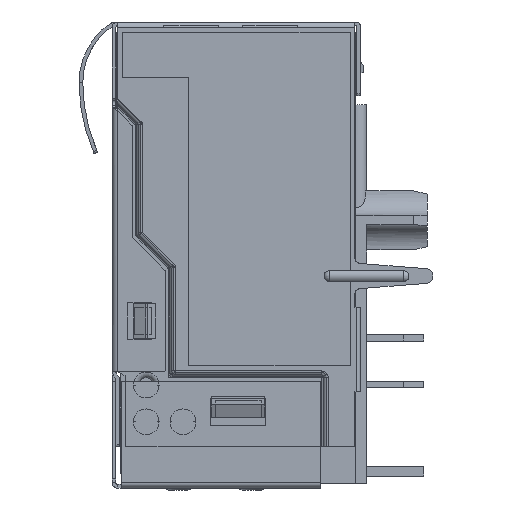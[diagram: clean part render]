
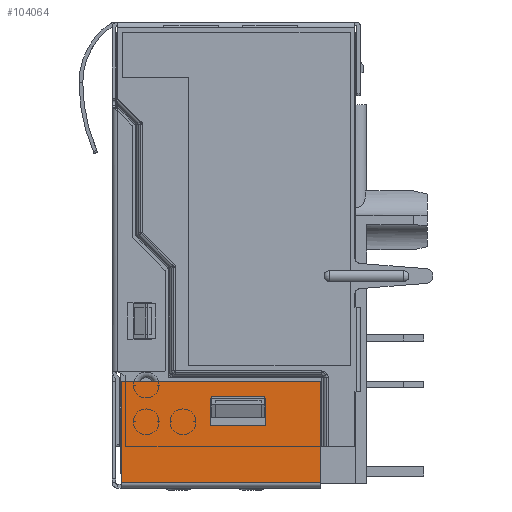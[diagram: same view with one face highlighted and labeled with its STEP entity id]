
A CAD part, left-side view. The second image highlights one B-rep face of the part: STEP entity #104064.
In plain terms, the highlighted planar face has unit normal (-1, 0, 0).
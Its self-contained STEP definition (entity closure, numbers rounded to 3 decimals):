
#102452=DIRECTION('',(0.,1.,0.));
#102453=VECTOR('',#102452,10.85);
#102454=CARTESIAN_POINT('',(-29.565,-11.35,-19.56));
#102455=LINE('',#102454,#102453);
#102468=DIRECTION('',(0.,0.,1.));
#102469=VECTOR('',#102468,5.5);
#102470=CARTESIAN_POINT('',(-29.565,-11.35,-25.06));
#102471=LINE('',#102470,#102469);
#102476=DIRECTION('',(0.,-1.,0.));
#102477=VECTOR('',#102476,10.85);
#102478=CARTESIAN_POINT('',(-29.565,-0.5,-25.06));
#102479=LINE('',#102478,#102477);
#103210=DIRECTION('',(0.,0.,1.));
#103211=VECTOR('',#103210,5.5);
#103212=CARTESIAN_POINT('',(-29.565,-0.5,-25.06));
#103213=LINE('',#103212,#103211);
#103218=DIRECTION('',(0.,0.,1.));
#103219=VECTOR('',#103218,1.5);
#103220=CARTESIAN_POINT('',(-29.565,-8.35,-21.96));
#103221=LINE('',#103220,#103219);
#103226=DIRECTION('',(0.,-1.,0.));
#103227=VECTOR('',#103226,3.);
#103228=CARTESIAN_POINT('',(-29.565,-5.35,-21.96));
#103229=LINE('',#103228,#103227);
#103238=DIRECTION('',(0.,0.,-1.));
#103239=VECTOR('',#103238,1.5);
#103240=CARTESIAN_POINT('',(-29.565,-5.35,-20.46));
#103241=LINE('',#103240,#103239);
#103250=DIRECTION('',(0.,1.,0.));
#103251=VECTOR('',#103250,3.);
#103252=CARTESIAN_POINT('',(-29.565,-8.35,-20.46));
#103253=LINE('',#103252,#103251);
#103610=CARTESIAN_POINT('',(-29.565,-11.35,-19.56));
#103611=VERTEX_POINT('',#103610);
#103612=CARTESIAN_POINT('',(-29.565,-11.35,-25.06));
#103613=VERTEX_POINT('',#103612);
#103674=CARTESIAN_POINT('',(-29.565,-0.5,-25.06));
#103675=VERTEX_POINT('',#103674);
#103678=CARTESIAN_POINT('',(-29.565,-0.5,-19.56));
#103679=VERTEX_POINT('',#103678);
#103680=CARTESIAN_POINT('',(-29.565,-8.35,-21.96));
#103681=CARTESIAN_POINT('',(-29.565,-8.35,-20.46));
#103682=VERTEX_POINT('',#103680);
#103683=VERTEX_POINT('',#103681);
#103684=CARTESIAN_POINT('',(-29.565,-5.35,-20.46));
#103685=VERTEX_POINT('',#103684);
#103686=CARTESIAN_POINT('',(-29.565,-5.35,-21.96));
#103687=VERTEX_POINT('',#103686);
#104041=CARTESIAN_POINT('',(-29.565,-5.925,-22.31));
#104042=DIRECTION('',(1.,0.,0.));
#104043=DIRECTION('',(0.,-1.,0.));
#104044=AXIS2_PLACEMENT_3D('',#104041,#104042,#104043);
#104045=PLANE('',#104044);
#104046=ORIENTED_EDGE('',*,*,#103764,.F.);
#104048=ORIENTED_EDGE('',*,*,#104047,.F.);
#104050=ORIENTED_EDGE('',*,*,#104049,.T.);
#104051=ORIENTED_EDGE('',*,*,#104032,.F.);
#104052=EDGE_LOOP('',(#104046,#104048,#104050,#104051));
#104053=FACE_OUTER_BOUND('',#104052,.F.);
#104055=ORIENTED_EDGE('',*,*,#104054,.T.);
#104057=ORIENTED_EDGE('',*,*,#104056,.T.);
#104059=ORIENTED_EDGE('',*,*,#104058,.T.);
#104061=ORIENTED_EDGE('',*,*,#104060,.T.);
#104062=EDGE_LOOP('',(#104055,#104057,#104059,#104061));
#104063=FACE_BOUND('',#104062,.F.);
#104064=ADVANCED_FACE('',(#104053,#104063),#104045,.F.);
#103764=EDGE_CURVE('',#103613,#103611,#102471,.T.);
#104032=EDGE_CURVE('',#103611,#103679,#102455,.T.);
#104047=EDGE_CURVE('',#103675,#103613,#102479,.T.);
#104049=EDGE_CURVE('',#103675,#103679,#103213,.T.);
#104054=EDGE_CURVE('',#103682,#103683,#103221,.T.);
#104056=EDGE_CURVE('',#103683,#103685,#103253,.T.);
#104058=EDGE_CURVE('',#103685,#103687,#103241,.T.);
#104060=EDGE_CURVE('',#103687,#103682,#103229,.T.);
